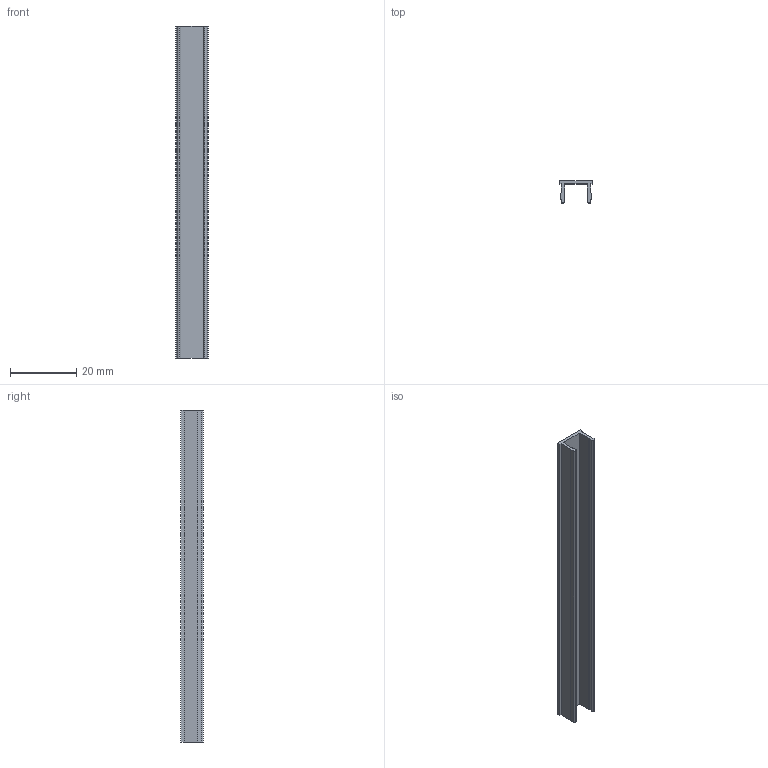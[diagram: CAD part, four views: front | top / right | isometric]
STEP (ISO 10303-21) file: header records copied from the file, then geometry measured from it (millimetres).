
FILE_DESCRIPTION (( 'STEP AP214' ), '1' );
FILE_NAME ('SNSD.30.50.40. Çàãëóøêà äëÿ ïàçà 8 ìì(F04).STEP', '2014-11-20T08:12:54', ( 'XTreme.ws' ), ( 'XTreme.ws' ), 'SwSTEP 2.0', 'SolidWorks 2014', '' );
FILE_SCHEMA (( 'AUTOMOTIVE_DESIGN' ));
Length unit declared in the file: millimetre
Products named in the file (1): SNSD.30.50.40. Çàãëóøêà äëÿ ïàçà 8 ìì(F04)
Bounding box: 9.8 x 6.73 x 100 mm (x, y, z)
Volume: 2109.7 mm3; surface area: 4416.6 mm2
Topology: 1 solids, 1 shells, 24 faces, 66 edges, 44 vertices
Faces by surface type: plane 16, cylinder 8
Entity records: 800 total; most frequent: CARTESIAN_POINT 135, DIRECTION 132, ORIENTED_EDGE 132, EDGE_CURVE 66, VECTOR 50, LINE 50, VERTEX_POINT 44, AXIS2_PLACEMENT_3D 41
